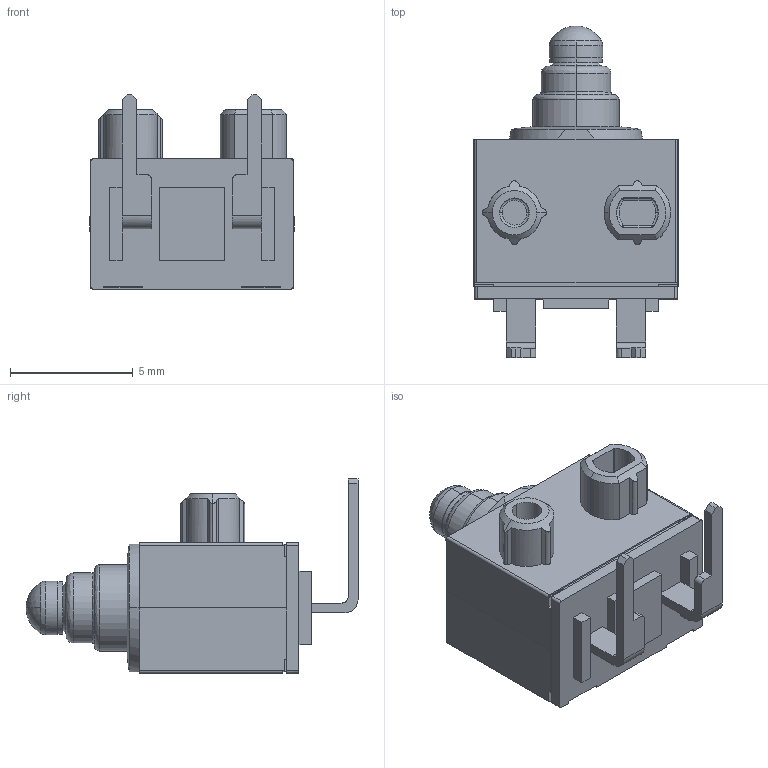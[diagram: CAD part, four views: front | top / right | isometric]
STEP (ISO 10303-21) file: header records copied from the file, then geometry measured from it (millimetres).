
FILE_DESCRIPTION (( 'STEP AP214' ), '1' );
FILE_NAME ('SPVQ820302.STEP', '2018-06-20T05:33:09', ( 'user' ), ( '' ), 'SwSTEP 2.0', 'SolidWorks 2017', '' );
FILE_SCHEMA (( 'AUTOMOTIVE_DESIGN' ));
Length unit declared in the file: millimetre
Products named in the file (1): SPVQ820302
Bounding box: 8.3 x 13.5 x 7.9 mm (x, y, z)
Volume: 341.1 mm3; surface area: 406.8 mm2
Topology: 1 solids, 1 shells, 288 faces, 761 edges, 496 vertices
Faces by surface type: plane 184, cylinder 55, bspline 26, cone 18, sphere 5
Entity records: 10670 total; most frequent: CARTESIAN_POINT 3262, ORIENTED_EDGE 1520, DIRECTION 1192, EDGE_CURVE 760, VECTOR 516, LINE 516, VERTEX_POINT 496, AXIS2_PLACEMENT_3D 338
